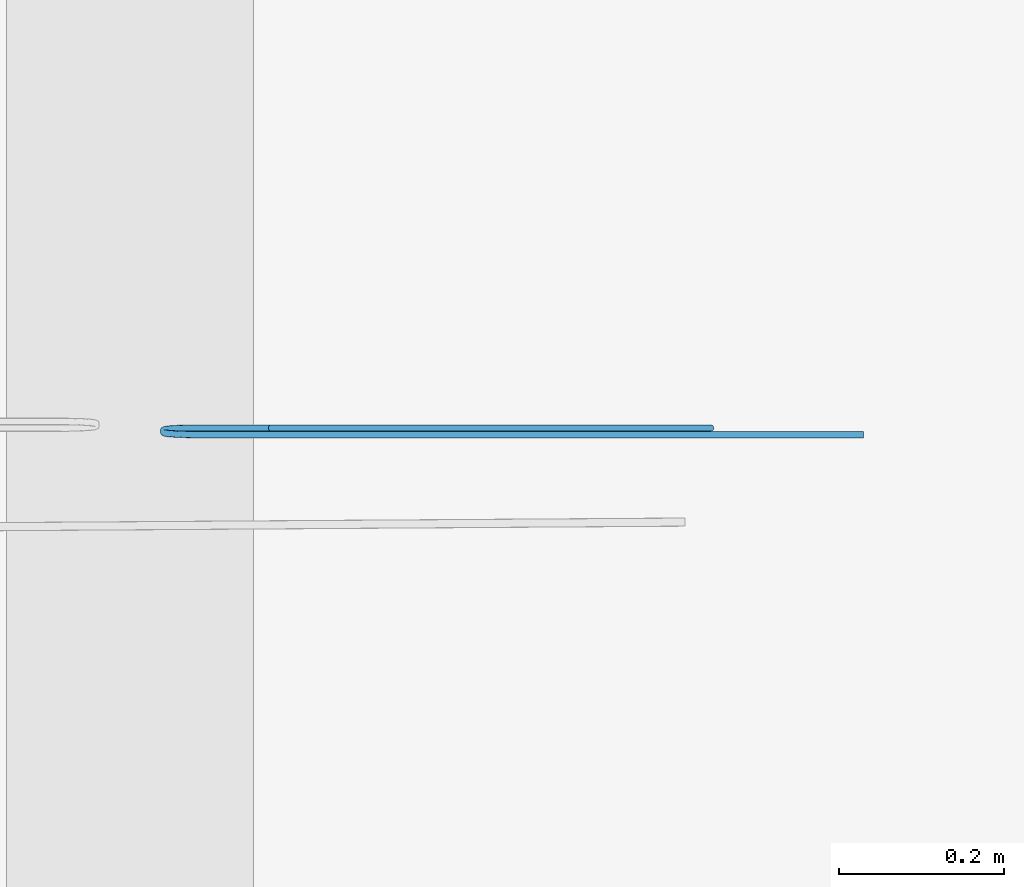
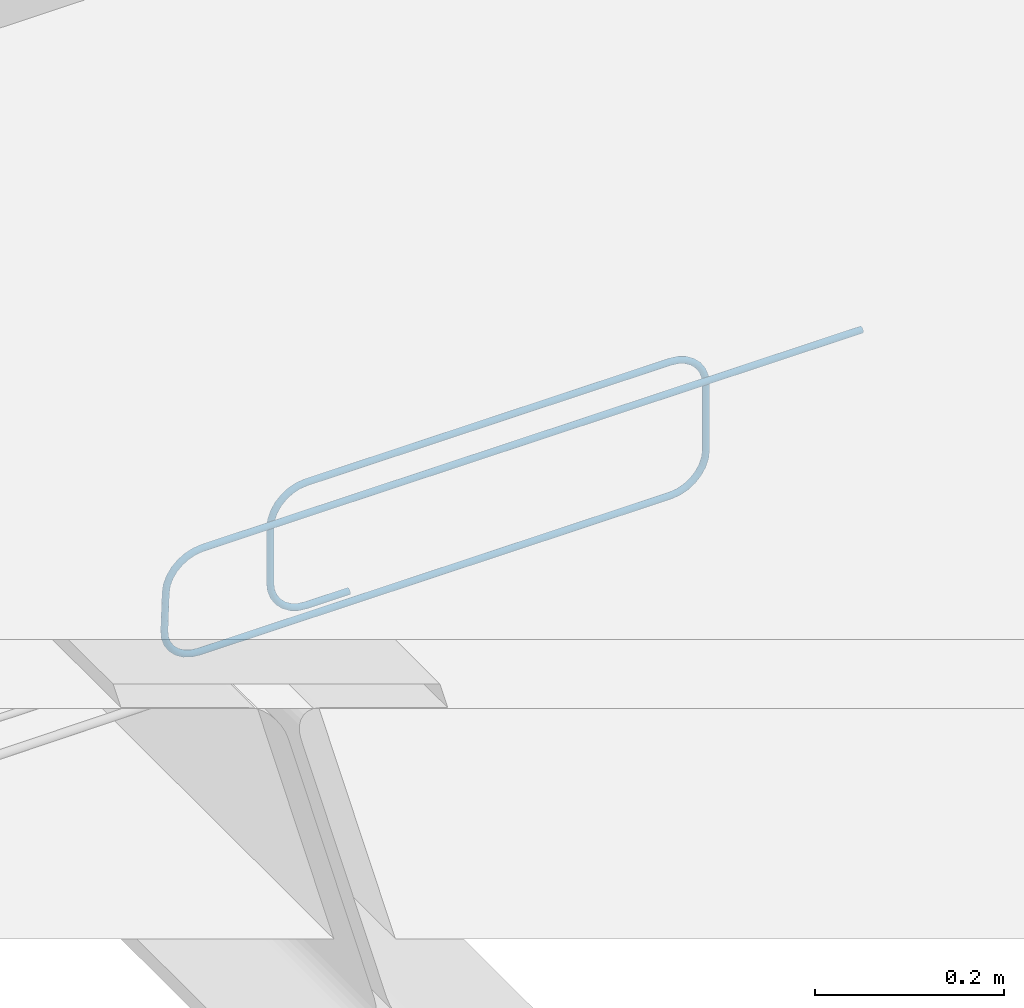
# One storey, part 9 of 9: 1 reinforcing bar.
"""IFC2X3 building model written with IfcOpenShell, lengths in millimetres."""

from ifc_helpers import new_model, entity, si_unit, converted_unit, derived_unit, direction, frame, origin, place, context, subcontext, project, spatial, element, save


model = new_model("IFC2X3")

# Units and contexts
model_context = context("Model", 3, precision=0.01, world=origin(), true_north=direction((6.12303176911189e-17, 1.0)))
body_context = subcontext(model_context, "Body", "Model", "MODEL_VIEW")
ifc_project = project(units=[si_unit("LENGTHUNIT", "METRE", prefix="MILLI"), si_unit("AREAUNIT", "SQUARE_METRE"), si_unit("VOLUMEUNIT", "CUBIC_METRE"), converted_unit("PLANEANGLEUNIT", "DEGREE", entity("IfcRatioMeasure", 0.0174532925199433), si_unit("PLANEANGLEUNIT", "RADIAN"), dimensions=[0, 0, 0, 0, 0, 0, 0]), si_unit("MASSUNIT", "GRAM", prefix="KILO"), derived_unit("MASSDENSITYUNIT", [(si_unit("MASSUNIT", "GRAM", prefix="KILO"), 1), (si_unit("LENGTHUNIT", "METRE"), -3)]), derived_unit("MOMENTOFINERTIAUNIT", [(si_unit("LENGTHUNIT", "METRE"), 4)]), si_unit("TIMEUNIT", "SECOND"), si_unit("FREQUENCYUNIT", "HERTZ"), si_unit("THERMODYNAMICTEMPERATUREUNIT", "DEGREE_CELSIUS"), derived_unit("THERMALTRANSMITTANCEUNIT", [(si_unit("MASSUNIT", "GRAM", prefix="KILO"), 1), (si_unit("THERMODYNAMICTEMPERATUREUNIT", "KELVIN"), -1), (si_unit("TIMEUNIT", "SECOND"), -3)]), derived_unit("VOLUMETRICFLOWRATEUNIT", [(si_unit("LENGTHUNIT", "METRE"), 3), (si_unit("TIMEUNIT", "SECOND"), -1)]), si_unit("ELECTRICCURRENTUNIT", "AMPERE"), si_unit("ELECTRICVOLTAGEUNIT", "VOLT"), si_unit("POWERUNIT", "WATT"), si_unit("FORCEUNIT", "NEWTON", prefix="KILO"), si_unit("ILLUMINANCEUNIT", "LUX"), si_unit("LUMINOUSFLUXUNIT", "LUMEN"), si_unit("LUMINOUSINTENSITYUNIT", "CANDELA"), derived_unit("USERDEFINED", [(si_unit("MASSUNIT", "GRAM", prefix="KILO"), -1), (si_unit("LENGTHUNIT", "METRE"), -2), (si_unit("TIMEUNIT", "SECOND"), 3), (si_unit("LUMINOUSFLUXUNIT", "LUMEN"), 1)]), derived_unit("LINEARVELOCITYUNIT", [(si_unit("LENGTHUNIT", "METRE"), 1), (si_unit("TIMEUNIT", "SECOND"), -1)]), si_unit("PRESSUREUNIT", "PASCAL"), derived_unit("USERDEFINED", [(si_unit("LENGTHUNIT", "METRE"), -2), (si_unit("MASSUNIT", "GRAM", prefix="KILO"), 1), (si_unit("TIMEUNIT", "SECOND"), -2)]), derived_unit("LINEARFORCEUNIT", [(si_unit("MASSUNIT", "GRAM", prefix="KILO"), 1), (si_unit("LENGTHUNIT", "METRE"), 1), (si_unit("TIMEUNIT", "SECOND"), -2), (si_unit("LENGTHUNIT", "METRE"), -1)]), derived_unit("PLANARFORCEUNIT", [(si_unit("MASSUNIT", "GRAM", prefix="KILO"), 1), (si_unit("LENGTHUNIT", "METRE"), 1), (si_unit("TIMEUNIT", "SECOND"), -2), (si_unit("LENGTHUNIT", "METRE"), -2)])], contexts=[model_context])

# Site, building, storey
site_placement = place(None, origin())
site = spatial("IfcSite", under=ifc_project, at=site_placement, Name="Default", CompositionType="ELEMENT")
building_placement = place(site_placement, origin())
building = spatial("IfcBuilding", under=site, at=building_placement, CompositionType="ELEMENT")
storey_placement = place(building_placement, frame((0.0, 0.0, 7000.0)))
storey = spatial("IfcBuildingStorey", under=building, at=storey_placement, Name="02 tweede verdieping", CompositionType="ELEMENT", Elevation=7000.00000000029)

# Reinforcing bar
reinforcing_bar_placement = place(storey_placement, origin())
ifc_direction_1 = entity("IfcDirection", [0.0, 1.0, 0.0])
ifc_direction_2 = entity("IfcDirection", [-1.0, 0.0, 0.0])
element("IfcReinforcingBar", 1, at=reinforcing_bar_placement, inside=storey, Name="Rebar Bar:SR_ø8 : Shape Rebar Shape 5: 2", ObjectType="Rebar Bar:SR_ø8", BarLength=2502.40730267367, BarRole="NOTDEFINED", CrossSectionArea=5.02654824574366e-05, NominalDiameter=8.0, context=body_context, shape_type="AdvancedSweptSolid", body=[
    entity("IfcSweptDiskSolid", entity("IfcCompositeCurve", [entity("IfcCompositeCurveSegment", "CONTINUOUS", True, entity("IfcPolyline", [entity("IfcCartesianPoint", [29237.7670532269, 30869.7239395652, 898.171324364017]), entity("IfcCartesianPoint", [29185.7670532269, 30869.7239395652, 898.171324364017])])), entity("IfcCompositeCurveSegment", "CONTINUOUS", True, entity("IfcTrimmedCurve", entity("IfcCircle", entity("IfcAxis2Placement3D", entity("IfcCartesianPoint", [29185.7670532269, 30869.7239395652, 942.171324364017]), ifc_direction_1, ifc_direction_2), 44.0), [entity("IfcParameterValue", 270.0)], [entity("IfcParameterValue", 360.0)], True, "PARAMETER")), entity("IfcCompositeCurveSegment", "CONTINUOUS", True, entity("IfcPolyline", [entity("IfcCartesianPoint", [29141.7670532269, 30869.7239395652, 942.171324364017]), entity("IfcCartesianPoint", [29141.7670532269, 30869.7239395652, 1013.25780031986])])), entity("IfcCompositeCurveSegment", "CONTINUOUS", True, entity("IfcTrimmedCurve", entity("IfcCircle", entity("IfcAxis2Placement3D", entity("IfcCartesianPoint", [29185.7670532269, 30869.7239395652, 1013.25780031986]), ifc_direction_1, entity("IfcDirection", [0.0, 0.0, 1.0])), 44.0), [entity("IfcParameterValue", 270.0)], [entity("IfcParameterValue", 360.0)], True, "PARAMETER")), entity("IfcCompositeCurveSegment", "CONTINUOUS", True, entity("IfcPolyline", [entity("IfcCartesianPoint", [29185.7670532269, 30869.7239395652, 1057.25780031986]), entity("IfcCartesianPoint", [29631.1743982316, 30869.7239395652, 1057.25780031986])])), entity("IfcCompositeCurveSegment", "CONTINUOUS", True, entity("IfcTrimmedCurve", entity("IfcCircle", entity("IfcAxis2Placement3D", entity("IfcCartesianPoint", [29631.1743982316, 30869.7239395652, 1013.25780031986]), ifc_direction_1, entity("IfcDirection", [1.0, 0.0, 0.0])), 44.0), [entity("IfcParameterValue", 270.0)], [entity("IfcParameterValue", 360.0)], True, "PARAMETER")), entity("IfcCompositeCurveSegment", "CONTINUOUS", True, entity("IfcPolyline", [entity("IfcCartesianPoint", [29675.1743982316, 30869.7239395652, 1013.25780031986]), entity("IfcCartesianPoint", [29675.1743982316, 30869.7239395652, 928.040008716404])])), entity("IfcCompositeCurveSegment", "CONTINUOUS", True, entity("IfcTrimmedCurve", entity("IfcCircle", entity("IfcAxis2Placement3D", entity("IfcCartesianPoint", [29631.1743982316, 30869.7239395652, 928.040008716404]), ifc_direction_1, entity("IfcDirection", [0.0, 0.0, -1.0])), 44.0), [entity("IfcParameterValue", 270.0)], [entity("IfcParameterValue", 360.0)], True, "PARAMETER")), entity("IfcCompositeCurveSegment", "CONTINUOUS", True, entity("IfcPolyline", [entity("IfcCartesianPoint", [29631.1743982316, 30869.7239395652, 884.040008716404]), entity("IfcCartesianPoint", [29054.7101783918, 30869.7239395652, 884.04000871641])])), entity("IfcCompositeCurveSegment", "CONTINUOUS", True, entity("IfcTrimmedCurve", entity("IfcCircle", entity("IfcAxis2Placement3D", entity("IfcCartesianPoint", [29054.7101783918, 30867.1997035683, 927.967542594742]), entity("IfcDirection", [0.0, 0.998353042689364, 0.0573689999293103]), ifc_direction_2), 44.0), [entity("IfcParameterValue", 270.0)], [entity("IfcParameterValue", 360.0)], True, "PARAMETER")), entity("IfcCompositeCurveSegment", "CONTINUOUS", True, entity("IfcPolyline", [entity("IfcCartesianPoint", [29010.7101783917, 30867.1997035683, 927.967542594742]), entity("IfcCartesianPoint", [29010.7101783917, 30864.2481755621, 979.330943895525])])), entity("IfcCompositeCurveSegment", "CONTINUOUS", True, entity("IfcTrimmedCurve", entity("IfcCircle", entity("IfcAxis2Placement3D", entity("IfcCartesianPoint", [29054.7101783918, 30864.2481755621, 979.330943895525]), entity("IfcDirection", [0.0, 0.998353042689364, 0.0573689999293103]), entity("IfcDirection", [0.0, -0.0573689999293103, 0.998353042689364])), 44.0), [entity("IfcParameterValue", 270.0)], [entity("IfcParameterValue", 360.0)], True, "PARAMETER")), entity("IfcCompositeCurveSegment", "CONTINUOUS", True, entity("IfcPolyline", [entity("IfcCartesianPoint", [29054.7101783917, 30861.7239395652, 1023.25847777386]), entity("IfcCartesianPoint", [29861.0329493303, 30861.7239395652, 1023.25847777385])]))], False), 4.0, None, 0.0, 547.0),
])

save(model, "model.ifc")
